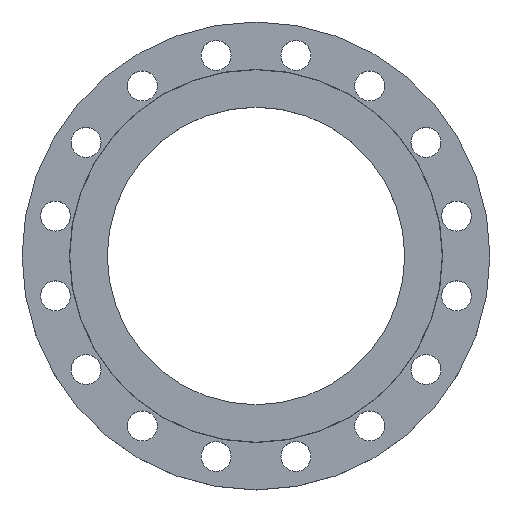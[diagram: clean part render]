
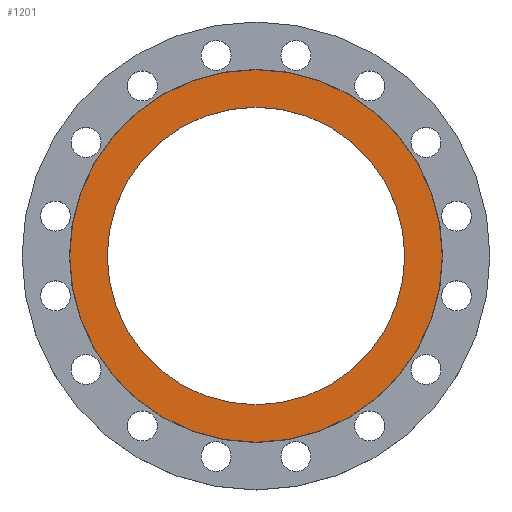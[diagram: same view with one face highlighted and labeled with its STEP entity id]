
A CAD part, top view. The second image highlights one B-rep face of the part: STEP entity #1201.
In plain terms, the highlighted planar face has unit normal (0, 0, 1).
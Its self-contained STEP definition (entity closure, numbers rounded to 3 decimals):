
#16 = AXIS2_PLACEMENT_3D ( 'NONE', #504, #503, #500 ) ;
#37 = VERTEX_POINT ( 'NONE', #1364 ) ;
#143 = EDGE_CURVE ( 'NONE', #1474, #1411, #583, .T. ) ;
#182 = CARTESIAN_POINT ( 'NONE',  ( -163.75, 0., 0. ) ) ;
#190 = CARTESIAN_POINT ( 'NONE',  ( 205., 0., 0. ) ) ;
#226 = CARTESIAN_POINT ( 'NONE',  ( 163.75, 0., 0. ) ) ;
#256 = CIRCLE ( 'NONE', #692, 205. ) ;
#314 = ORIENTED_EDGE ( 'NONE', *, *, #143, .T. ) ;
#317 = ORIENTED_EDGE ( 'NONE', *, *, #1247, .T. ) ;
#318 = ORIENTED_EDGE ( 'NONE', *, *, #855, .F. ) ;
#320 = ORIENTED_EDGE ( 'NONE', *, *, #1267, .F. ) ;
#374 = DIRECTION ( 'NONE',  ( -1., 0., 0. ) ) ;
#377 = DIRECTION ( 'NONE',  ( 0., 0., -1. ) ) ;
#381 = CARTESIAN_POINT ( 'NONE',  ( 0., 0., 0. ) ) ;
#427 = DIRECTION ( 'NONE',  ( -1., 0., 0. ) ) ;
#428 = DIRECTION ( 'NONE',  ( 0., 0., -1. ) ) ;
#429 = CARTESIAN_POINT ( 'NONE',  ( 0., 0., 0. ) ) ;
#434 = AXIS2_PLACEMENT_3D ( 'NONE', #381, #377, #374 ) ;
#438 = CIRCLE ( 'NONE', #434, 205. ) ;
#500 = DIRECTION ( 'NONE',  ( 1., 0., 0. ) ) ;
#503 = DIRECTION ( 'NONE',  ( 0., 0., 1. ) ) ;
#504 = CARTESIAN_POINT ( 'NONE',  ( 0., 0., 0. ) ) ;
#506 = PLANE ( 'NONE',  #16 ) ;
#507 = FACE_OUTER_BOUND ( 'NONE', #1388, .T. ) ;
#510 = FACE_BOUND ( 'NONE', #1465, .T. ) ;
#542 = AXIS2_PLACEMENT_3D ( 'NONE', #1245, #1244, #1243 ) ;
#583 = CIRCLE ( 'NONE', #542, 163.75 ) ;
#692 = AXIS2_PLACEMENT_3D ( 'NONE', #979, #977, #976 ) ;
#855 = EDGE_CURVE ( 'NONE', #37, #1462, #256, .T. ) ;
#976 = DIRECTION ( 'NONE',  ( -1., 0., 0. ) ) ;
#977 = DIRECTION ( 'NONE',  ( 0., 0., -1. ) ) ;
#979 = CARTESIAN_POINT ( 'NONE',  ( 0., 0., 0. ) ) ;
#1124 = AXIS2_PLACEMENT_3D ( 'NONE', #429, #428, #427 ) ;
#1178 = CIRCLE ( 'NONE', #1124, 163.75 ) ;
#1201 = ADVANCED_FACE ( 'NONE', ( #510, #507 ), #506, .T. ) ;
#1243 = DIRECTION ( 'NONE',  ( -1., 0., 0. ) ) ;
#1244 = DIRECTION ( 'NONE',  ( 0., 0., -1. ) ) ;
#1245 = CARTESIAN_POINT ( 'NONE',  ( 0., 0., 0. ) ) ;
#1247 = EDGE_CURVE ( 'NONE', #1411, #1474, #1178, .T. ) ;
#1267 = EDGE_CURVE ( 'NONE', #1462, #37, #438, .T. ) ;
#1364 = CARTESIAN_POINT ( 'NONE',  ( -205., 0., 0. ) ) ;
#1388 = EDGE_LOOP ( 'NONE', ( #318, #320 ) ) ;
#1411 = VERTEX_POINT ( 'NONE', #226 ) ;
#1462 = VERTEX_POINT ( 'NONE', #190 ) ;
#1465 = EDGE_LOOP ( 'NONE', ( #314, #317 ) ) ;
#1474 = VERTEX_POINT ( 'NONE', #182 ) ;
